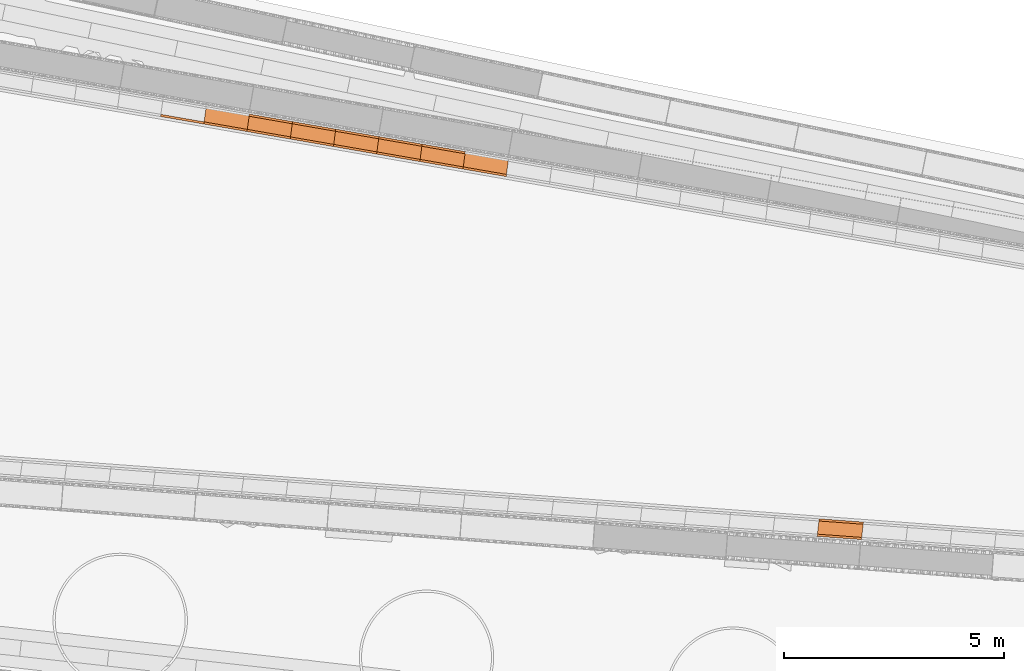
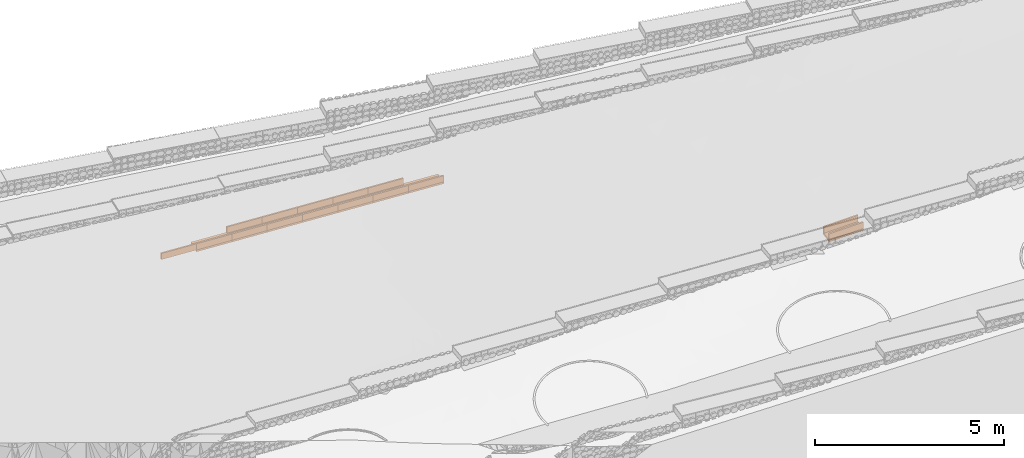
# Not in any storey, part 30 of 46: 23 proxies.
"""IFC4 model written with IfcOpenShell, lengths in metres."""

from ifc_helpers import new_model, si_unit, direction, frame, origin_with_axes, place, context, subcontext, project, spatial, polygons, material, element, save


model = new_model("IFC4")

# Units and contexts
model_context = context("Model", 3, precision=1e-05, world=origin_with_axes(), true_north=direction((0.0, 1.0)))
body_context = subcontext(model_context, "Body", "Model", "MODEL_VIEW")
ifc_project = project(units=[si_unit("VOLUMEUNIT", "CUBIC_METRE"), si_unit("LENGTHUNIT", "METRE"), si_unit("AREAUNIT", "SQUARE_METRE")], contexts=[model_context])

# Site
site_placement = place(None, origin_with_axes())
site = spatial("IfcSite", under=ifc_project, at=site_placement, Name="Lares · Rua das Mercês · artigo 4771")

# Proxies
ifc_material = material(Name="Caleiras · betão", Category="concrete")
proxy_1_placement = place(site_placement, frame((0.0, 0.0, 0.0), z_axis=(0.0, 0.0, 1.0), x_axis=(1.0, -1.03767253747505e-17, 0.0)))
element("IfcBuildingElementProxy", 1, at=proxy_1_placement, inside=site, material=ifc_material, Name="Acesso · canal lateral", ObjectType="Acesso · canal lateral", PredefinedType="USERDEFINED", context=body_context, shape_type="Tessellation", body=[
    polygons([(69.6834123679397, 1.04729718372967, 14.9002447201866), (69.7290946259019, 1.44468003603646, 14.9002447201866), (70.7339138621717, 1.37079048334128, 14.9747027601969), (70.6882316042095, 0.973407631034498, 14.9747027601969), (69.6834123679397, 1.04729718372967, 14.9602447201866), (69.7290946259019, 1.44468003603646, 14.9602447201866), (70.7339138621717, 1.37079048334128, 15.034702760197), (70.6882316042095, 0.973407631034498, 15.034702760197)], [[[4, 3, 2, 1]], [[5, 6, 7, 8]], [[1, 2, 6, 5]], [[2, 3, 7, 6]], [[3, 4, 8, 7]], [[4, 1, 5, 8]]]),
])
proxy_2_placement = place(site_placement, frame((0.0, 0.0, 0.0), z_axis=(0.0, 0.0, 1.0), x_axis=(1.0, -1.03767253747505e-17, 0.0)))
element("IfcBuildingElementProxy", 2, at=proxy_2_placement, inside=site, material=ifc_material, Name="Acesso · canal lateral", ObjectType="Acesso · canal lateral", PredefinedType="USERDEFINED", context=body_context, shape_type="Tessellation", body=[
    polygons([(69.6834123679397, 1.04729718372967, 14.9602447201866), (69.689122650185, 1.09697004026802, 14.9602447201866), (70.6939418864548, 1.02308048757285, 15.034702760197), (70.6882316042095, 0.973407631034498, 15.034702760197), (69.6834123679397, 1.04729718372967, 15.1602447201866), (69.689122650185, 1.09697004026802, 15.1602447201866), (70.6939418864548, 1.02308048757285, 15.2347027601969), (70.6882316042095, 0.973407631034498, 15.2347027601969)], [[[4, 3, 2, 1]], [[5, 6, 7, 8]], [[1, 2, 6, 5]], [[2, 3, 7, 6]], [[3, 4, 8, 7]], [[4, 1, 5, 8]]]),
])
proxy_3_placement = place(site_placement, frame((0.0, 0.0, 0.0), z_axis=(0.0, 0.0, 1.0), x_axis=(1.0, -1.03767253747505e-17, 0.0)))
element("IfcBuildingElementProxy", 3, at=proxy_3_placement, inside=site, material=ifc_material, Name="Acesso · canal lateral", ObjectType="Acesso · canal lateral", PredefinedType="USERDEFINED", context=body_context, shape_type="Tessellation", body=[
    polygons([(69.7233843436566, 1.39500717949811, 14.9602447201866), (69.7290946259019, 1.44468003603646, 14.9602447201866), (70.7339138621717, 1.37079048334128, 15.034702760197), (70.7282035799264, 1.32111762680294, 15.034702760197), (69.7233843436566, 1.39500717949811, 15.1602447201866), (69.7290946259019, 1.44468003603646, 15.1602447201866), (70.7339138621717, 1.37079048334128, 15.2347027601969), (70.7282035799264, 1.32111762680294, 15.2347027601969)], [[[4, 3, 2, 1]], [[5, 6, 7, 8]], [[1, 2, 6, 5]], [[2, 3, 7, 6]], [[3, 4, 8, 7]], [[4, 1, 5, 8]]]),
])
proxy_4_placement = place(site_placement, frame((0.0, 0.0, 0.0), z_axis=(0.0, 0.0, 1.0), x_axis=(1.0, -1.03767253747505e-17, 0.0)))
element("IfcBuildingElementProxy", 4, at=proxy_4_placement, inside=site, material=ifc_material, Name="Acesso · canal lateral", ObjectType="Acesso · canal lateral", PredefinedType="USERDEFINED", context=body_context, shape_type="Tessellation", body=[
    polygons([(54.7818602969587, 10.5747191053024, 13.7689160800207), (54.7888231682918, 10.6242319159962, 13.7689160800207), (55.769225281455, 10.4539091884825, 13.8433741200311), (55.762262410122, 10.4043963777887, 13.8433741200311), (54.7818602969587, 10.5747191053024, 13.9689160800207), (54.7888231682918, 10.6242319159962, 13.9689160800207), (55.769225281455, 10.4539091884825, 14.0433741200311), (55.762262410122, 10.4043963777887, 14.0433741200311)], [[[4, 3, 2, 1]], [[5, 6, 7, 8]], [[1, 2, 6, 5]], [[2, 3, 7, 6]], [[3, 4, 8, 7]], [[4, 1, 5, 8]]]),
])
proxy_5_placement = place(site_placement, frame((0.0, 0.0, 0.0), z_axis=(0.0, 0.0, 1.0), x_axis=(1.0, -1.03767253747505e-17, 0.0)))
element("IfcBuildingElementProxy", 5, at=proxy_5_placement, inside=site, material=ifc_material, Name="Acesso · canal lateral", ObjectType="Acesso · canal lateral", PredefinedType="USERDEFINED", context=body_context, shape_type="Tessellation", body=[
    polygons([(55.7625153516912, 10.4043609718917, 13.7833741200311), (55.8177124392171, 10.800534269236, 13.7833741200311), (56.7981061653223, 10.6302122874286, 13.8578321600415), (56.7429090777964, 10.2340389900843, 13.8578321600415), (55.7625153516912, 10.4043609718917, 13.8433741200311), (55.8177124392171, 10.800534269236, 13.8433741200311), (56.7981061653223, 10.6302122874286, 13.9178321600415), (56.7429090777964, 10.2340389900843, 13.9178321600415)], [[[4, 3, 2, 1]], [[5, 6, 7, 8]], [[1, 2, 6, 5]], [[2, 3, 7, 6]], [[3, 4, 8, 7]], [[4, 1, 5, 8]]]),
])
proxy_6_placement = place(site_placement, frame((0.0, 0.0, 0.0), z_axis=(0.0, 0.0, 1.0), x_axis=(1.0, -1.03767253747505e-17, 0.0)))
element("IfcBuildingElementProxy", 6, at=proxy_6_placement, inside=site, material=ifc_material, Name="Acesso · canal lateral", ObjectType="Acesso · canal lateral", PredefinedType="USERDEFINED", context=body_context, shape_type="Tessellation", body=[
    polygons([(55.7625153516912, 10.4043609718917, 13.8433741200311), (55.769414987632, 10.4538826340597, 13.8433741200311), (56.7498087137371, 10.2835606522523, 13.9178321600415), (56.7429090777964, 10.2340389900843, 13.9178321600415), (55.7625153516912, 10.4043609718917, 14.0433741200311), (55.769414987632, 10.4538826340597, 14.0433741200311), (56.7498087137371, 10.2835606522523, 14.1178321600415), (56.7429090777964, 10.2340389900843, 14.1178321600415)], [[[4, 3, 2, 1]], [[5, 6, 7, 8]], [[1, 2, 6, 5]], [[2, 3, 7, 6]], [[3, 4, 8, 7]], [[4, 1, 5, 8]]]),
])
proxy_7_placement = place(site_placement, frame((0.0, 0.0, 0.0), z_axis=(0.0, 0.0, 1.0), x_axis=(1.0, -1.03767253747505e-17, 0.0)))
element("IfcBuildingElementProxy", 7, at=proxy_7_placement, inside=site, material=ifc_material, Name="Acesso · canal lateral", ObjectType="Acesso · canal lateral", PredefinedType="USERDEFINED", context=body_context, shape_type="Tessellation", body=[
    polygons([(56.7431685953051, 10.2340030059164, 13.8578321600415), (56.7978466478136, 10.6302482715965, 13.8578321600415), (57.7782316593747, 10.4599270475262, 13.9322902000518), (57.7235536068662, 10.0636817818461, 13.9322902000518), (56.7431685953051, 10.2340030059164, 13.9178321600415), (56.7978466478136, 10.6302482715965, 13.9178321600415), (57.7782316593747, 10.4599270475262, 13.9922902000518), (57.7235536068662, 10.0636817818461, 13.9922902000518)], [[[4, 3, 2, 1]], [[5, 6, 7, 8]], [[1, 2, 6, 5]], [[2, 3, 7, 6]], [[3, 4, 8, 7]], [[4, 1, 5, 8]]]),
])
proxy_8_placement = place(site_placement, frame((0.0, 0.0, 0.0), z_axis=(0.0, 0.0, 1.0), x_axis=(1.0, -1.03767253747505e-17, 0.0)))
element("IfcBuildingElementProxy", 8, at=proxy_8_placement, inside=site, material=ifc_material, Name="Acesso · canal lateral", ObjectType="Acesso · canal lateral", PredefinedType="USERDEFINED", context=body_context, shape_type="Tessellation", body=[
    polygons([(56.7431685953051, 10.2340030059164, 13.9178321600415), (56.7500033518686, 10.2835336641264, 13.9178321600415), (57.7303883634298, 10.1132124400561, 13.9922902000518), (57.7235536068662, 10.0636817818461, 13.9922902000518), (56.7431685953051, 10.2340030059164, 14.1178321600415), (56.7500033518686, 10.2835336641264, 14.1178321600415), (57.7303883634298, 10.1132124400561, 14.1922902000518), (57.7235536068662, 10.0636817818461, 14.1922902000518)], [[[4, 3, 2, 1]], [[5, 6, 7, 8]], [[1, 2, 6, 5]], [[2, 3, 7, 6]], [[3, 4, 8, 7]], [[4, 1, 5, 8]]]),
])
proxy_9_placement = place(site_placement, frame((0.0, 0.0, 0.0), z_axis=(0.0, 0.0, 1.0), x_axis=(1.0, -1.03767253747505e-17, 0.0)))
element("IfcBuildingElementProxy", 9, at=proxy_9_placement, inside=site, material=ifc_material, Name="Acesso · canal lateral", ObjectType="Acesso · canal lateral", PredefinedType="USERDEFINED", context=body_context, shape_type="Tessellation", body=[
    polygons([(56.79101189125, 10.5807176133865, 13.9178321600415), (56.7978466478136, 10.6302482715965, 13.9178321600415), (57.7782316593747, 10.4599270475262, 13.9922902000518), (57.7713969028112, 10.4103963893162, 13.9922902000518), (56.79101189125, 10.5807176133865, 14.1178321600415), (56.7978466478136, 10.6302482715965, 14.1178321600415), (57.7782316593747, 10.4599270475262, 14.1922902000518), (57.7713969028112, 10.4103963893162, 14.1922902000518)], [[[4, 3, 2, 1]], [[5, 6, 7, 8]], [[1, 2, 6, 5]], [[2, 3, 7, 6]], [[3, 4, 8, 7]], [[4, 1, 5, 8]]]),
])
proxy_10_placement = place(site_placement, frame((0.0, 0.0, 0.0), z_axis=(0.0, 0.0, 1.0), x_axis=(1.0, -1.03767253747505e-17, 0.0)))
element("IfcBuildingElementProxy", 10, at=proxy_10_placement, inside=site, material=ifc_material, Name="Acesso · canal lateral", ObjectType="Acesso · canal lateral", PredefinedType="USERDEFINED", context=body_context, shape_type="Tessellation", body=[
    polygons([(57.723819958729, 10.0636452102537, 13.9322902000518), (57.7779653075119, 10.4599636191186, 13.9322902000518), (58.7583412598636, 10.2896431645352, 14.0067482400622), (58.7041959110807, 9.89332475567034, 14.0067482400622), (57.723819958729, 10.0636452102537, 13.9922902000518), (57.7779653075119, 10.4599636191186, 13.9922902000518), (58.7583412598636, 10.2896431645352, 14.0667482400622), (58.7041959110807, 9.89332475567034, 14.0667482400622)], [[[4, 3, 2, 1]], [[5, 6, 7, 8]], [[1, 2, 6, 5]], [[2, 3, 7, 6]], [[3, 4, 8, 7]], [[4, 1, 5, 8]]]),
])
proxy_11_placement = place(site_placement, frame((0.0, 0.0, 0.0), z_axis=(0.0, 0.0, 1.0), x_axis=(1.0, -1.03767253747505e-17, 0.0)))
element("IfcBuildingElementProxy", 11, at=proxy_11_placement, inside=site, material=ifc_material, Name="Acesso · canal lateral", ObjectType="Acesso · canal lateral", PredefinedType="USERDEFINED", context=body_context, shape_type="Tessellation", body=[
    polygons([(57.723819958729, 10.0636452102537, 13.9922902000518), (57.7305881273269, 10.1131850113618, 13.9922902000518), (58.7109640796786, 9.94286455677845, 14.0667482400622), (58.7041959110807, 9.89332475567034, 14.0667482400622), (57.723819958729, 10.0636452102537, 14.1922902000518), (57.7305881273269, 10.1131850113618, 14.1922902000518), (58.7109640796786, 9.94286455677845, 14.2667482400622), (58.7041959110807, 9.89332475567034, 14.2667482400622)], [[[4, 3, 2, 1]], [[5, 6, 7, 8]], [[1, 2, 6, 5]], [[2, 3, 7, 6]], [[3, 4, 8, 7]], [[4, 1, 5, 8]]]),
])
proxy_12_placement = place(site_placement, frame((0.0, 0.0, 0.0), z_axis=(0.0, 0.0, 1.0), x_axis=(1.0, -1.03767253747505e-17, 0.0)))
element("IfcBuildingElementProxy", 12, at=proxy_12_placement, inside=site, material=ifc_material, Name="Acesso · canal lateral", ObjectType="Acesso · canal lateral", PredefinedType="USERDEFINED", context=body_context, shape_type="Tessellation", body=[
    polygons([(57.7711971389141, 10.4104238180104, 13.9922902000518), (57.7779653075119, 10.4599636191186, 13.9922902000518), (58.7583412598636, 10.2896431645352, 14.0667482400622), (58.7515730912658, 10.2401033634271, 14.0667482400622), (57.7711971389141, 10.4104238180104, 14.1922902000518), (57.7779653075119, 10.4599636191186, 14.1922902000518), (58.7583412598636, 10.2896431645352, 14.2667482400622), (58.7515730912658, 10.2401033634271, 14.2667482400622)], [[[4, 3, 2, 1]], [[5, 6, 7, 8]], [[1, 2, 6, 5]], [[2, 3, 7, 6]], [[3, 4, 8, 7]], [[4, 1, 5, 8]]]),
])
proxy_13_placement = place(site_placement, frame((0.0, 0.0, 0.0), z_axis=(0.0, 0.0, 1.0), x_axis=(1.0, -1.03767253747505e-17, 0.0)))
element("IfcBuildingElementProxy", 13, at=proxy_13_placement, inside=site, material=ifc_material, Name="Acesso · canal lateral", ObjectType="Acesso · canal lateral", PredefinedType="USERDEFINED", context=body_context, shape_type="Tessellation", body=[
    polygons([(58.7044693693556, 9.89328758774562, 14.0067482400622), (58.7580678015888, 10.2896803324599, 14.0067482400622), (59.7384343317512, 10.1193606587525, 14.0812062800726), (59.684835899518, 9.72296791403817, 14.0812062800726), (58.7044693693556, 9.89328758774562, 14.0667482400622), (58.7580678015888, 10.2896803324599, 14.0667482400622), (59.7384343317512, 10.1193606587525, 14.1412062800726), (59.684835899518, 9.72296791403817, 14.1412062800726)], [[[4, 3, 2, 1]], [[5, 6, 7, 8]], [[1, 2, 6, 5]], [[2, 3, 7, 6]], [[3, 4, 8, 7]], [[4, 1, 5, 8]]]),
])
proxy_14_placement = place(site_placement, frame((0.0, 0.0, 0.0), z_axis=(0.0, 0.0, 1.0), x_axis=(1.0, -1.03767253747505e-17, 0.0)))
element("IfcBuildingElementProxy", 14, at=proxy_14_placement, inside=site, material=ifc_material, Name="Acesso · canal lateral", ObjectType="Acesso · canal lateral", PredefinedType="USERDEFINED", context=body_context, shape_type="Tessellation", body=[
    polygons([(58.7044693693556, 9.89328758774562, 14.0667482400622), (58.7111691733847, 9.94283668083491, 14.0667482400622), (59.6915357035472, 9.77251700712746, 14.1412062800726), (59.684835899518, 9.72296791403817, 14.1412062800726), (58.7044693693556, 9.89328758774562, 14.2667482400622), (58.7111691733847, 9.94283668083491, 14.2667482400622), (59.6915357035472, 9.77251700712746, 14.3412062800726), (59.684835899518, 9.72296791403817, 14.3412062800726)], [[[4, 3, 2, 1]], [[5, 6, 7, 8]], [[1, 2, 6, 5]], [[2, 3, 7, 6]], [[3, 4, 8, 7]], [[4, 1, 5, 8]]]),
])
proxy_15_placement = place(site_placement, frame((0.0, 0.0, 0.0), z_axis=(0.0, 0.0, 1.0), x_axis=(1.0, -1.03767253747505e-17, 0.0)))
element("IfcBuildingElementProxy", 15, at=proxy_15_placement, inside=site, material=ifc_material, Name="Acesso · canal lateral", ObjectType="Acesso · canal lateral", PredefinedType="USERDEFINED", context=body_context, shape_type="Tessellation", body=[
    polygons([(58.7513679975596, 10.2401312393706, 14.0667482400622), (58.7580678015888, 10.2896803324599, 14.0667482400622), (59.7384343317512, 10.1193606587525, 14.1412062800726), (59.731734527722, 10.0698115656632, 14.1412062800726), (58.7513679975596, 10.2401312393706, 14.2667482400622), (58.7580678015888, 10.2896803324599, 14.2667482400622), (59.7384343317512, 10.1193606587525, 14.3412062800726), (59.731734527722, 10.0698115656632, 14.3412062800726)], [[[4, 3, 2, 1]], [[5, 6, 7, 8]], [[1, 2, 6, 5]], [[2, 3, 7, 6]], [[3, 4, 8, 7]], [[4, 1, 5, 8]]]),
])
proxy_16_placement = place(site_placement, frame((0.0, 0.0, 0.0), z_axis=(0.0, 0.0, 1.0), x_axis=(1.0, -1.03767253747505e-17, 0.0)))
element("IfcBuildingElementProxy", 16, at=proxy_16_placement, inside=site, material=ifc_material, Name="Acesso · canal lateral", ObjectType="Acesso · canal lateral", PredefinedType="USERDEFINED", context=body_context, shape_type="Tessellation", body=[
    polygons([(59.6851167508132, 9.72293014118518, 14.0812062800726), (59.738153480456, 10.1193984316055, 14.0812062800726), (60.7185102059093, 9.9490795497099, 14.1556643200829), (60.6654734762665, 9.55261125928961, 14.1556643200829), (59.6851167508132, 9.72293014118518, 14.1412062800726), (59.738153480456, 10.1193984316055, 14.1412062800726), (60.7185102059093, 9.9490795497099, 14.2156643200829), (60.6654734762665, 9.55261125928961, 14.2156643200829)], [[[4, 3, 2, 1]], [[5, 6, 7, 8]], [[1, 2, 6, 5]], [[2, 3, 7, 6]], [[3, 4, 8, 7]], [[4, 1, 5, 8]]]),
])
proxy_17_placement = place(site_placement, frame((0.0, 0.0, 0.0), z_axis=(0.0, 0.0, 1.0), x_axis=(1.0, -1.03767253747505e-17, 0.0)))
element("IfcBuildingElementProxy", 17, at=proxy_17_placement, inside=site, material=ifc_material, Name="Acesso · canal lateral", ObjectType="Acesso · canal lateral", PredefinedType="USERDEFINED", context=body_context, shape_type="Tessellation", body=[
    polygons([(59.6851167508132, 9.72293014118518, 14.1412062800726), (59.6917463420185, 9.77248867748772, 14.1412062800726), (60.6721030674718, 9.60216979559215, 14.2156643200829), (60.6654734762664, 9.55261125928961, 14.2156643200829), (59.6851167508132, 9.72293014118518, 14.3412062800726), (59.6917463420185, 9.77248867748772, 14.3412062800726), (60.6721030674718, 9.60216979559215, 14.4156643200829), (60.6654734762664, 9.55261125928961, 14.4156643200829)], [[[4, 3, 2, 1]], [[5, 6, 7, 8]], [[1, 2, 6, 5]], [[2, 3, 7, 6]], [[3, 4, 8, 7]], [[4, 1, 5, 8]]]),
])
proxy_18_placement = place(site_placement, frame((0.0, 0.0, 0.0), z_axis=(0.0, 0.0, 1.0), x_axis=(1.0, -1.03767253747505e-17, 0.0)))
element("IfcBuildingElementProxy", 18, at=proxy_18_placement, inside=site, material=ifc_material, Name="Acesso · canal lateral", ObjectType="Acesso · canal lateral", PredefinedType="USERDEFINED", context=body_context, shape_type="Tessellation", body=[
    polygons([(59.7315238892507, 10.0698398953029, 14.1412062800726), (59.7381534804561, 10.1193984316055, 14.1412062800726), (60.7185102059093, 9.9490795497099, 14.2156643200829), (60.711880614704, 9.89952101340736, 14.2156643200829), (59.7315238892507, 10.0698398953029, 14.3412062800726), (59.7381534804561, 10.1193984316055, 14.3412062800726), (60.7185102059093, 9.9490795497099, 14.4156643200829), (60.711880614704, 9.89952101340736, 14.4156643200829)], [[[4, 3, 2, 1]], [[5, 6, 7, 8]], [[1, 2, 6, 5]], [[2, 3, 7, 6]], [[3, 4, 8, 7]], [[4, 1, 5, 8]]]),
])
proxy_19_placement = place(site_placement, frame((0.0, 0.0, 0.0), z_axis=(0.0, 0.0, 1.0), x_axis=(1.0, -1.03767253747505e-17, 0.0)))
element("IfcBuildingElementProxy", 19, at=proxy_19_placement, inside=site, material=ifc_material, Name="Acesso · canal lateral", ObjectType="Acesso · canal lateral", PredefinedType="USERDEFINED", context=body_context, shape_type="Tessellation", body=[
    polygons([(60.6657620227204, 9.55257287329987, 14.1556643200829), (60.7182216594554, 9.94911793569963, 14.1556643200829), (61.698568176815, 9.778799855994, 14.2301223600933), (61.6461085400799, 9.38225479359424, 14.2301223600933), (60.6657620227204, 9.55257287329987, 14.2156643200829), (60.7182216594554, 9.94911793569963, 14.2156643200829), (61.698568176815, 9.778799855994, 14.2901223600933), (61.6461085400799, 9.38225479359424, 14.2901223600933)], [[[4, 3, 2, 1]], [[5, 6, 7, 8]], [[1, 2, 6, 5]], [[2, 3, 7, 6]], [[3, 4, 8, 7]], [[4, 1, 5, 8]]]),
])
proxy_20_placement = place(site_placement, frame((0.0, 0.0, 0.0), z_axis=(0.0, 0.0, 1.0), x_axis=(1.0, -1.03767253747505e-17, 0.0)))
element("IfcBuildingElementProxy", 20, at=proxy_20_placement, inside=site, material=ifc_material, Name="Acesso · canal lateral", ObjectType="Acesso · canal lateral", PredefinedType="USERDEFINED", context=body_context, shape_type="Tessellation", body=[
    polygons([(60.6657620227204, 9.55257287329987, 14.2156643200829), (60.6723194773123, 9.60214100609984, 14.2156643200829), (61.6526659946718, 9.43182292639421, 14.2901223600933), (61.6461085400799, 9.38225479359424, 14.2901223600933), (60.6657620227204, 9.55257287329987, 14.4156643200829), (60.6723194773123, 9.60214100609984, 14.4156643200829), (61.6526659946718, 9.43182292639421, 14.4901223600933), (61.6461085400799, 9.38225479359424, 14.4901223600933)], [[[4, 3, 2, 1]], [[5, 6, 7, 8]], [[1, 2, 6, 5]], [[2, 3, 7, 6]], [[3, 4, 8, 7]], [[4, 1, 5, 8]]]),
])
proxy_21_placement = place(site_placement, frame((0.0, 0.0, 0.0), z_axis=(0.0, 0.0, 1.0), x_axis=(1.0, -1.03767253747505e-17, 0.0)))
element("IfcBuildingElementProxy", 21, at=proxy_21_placement, inside=site, material=ifc_material, Name="Acesso · canal lateral", ObjectType="Acesso · canal lateral", PredefinedType="USERDEFINED", context=body_context, shape_type="Tessellation", body=[
    polygons([(60.7116642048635, 9.89954980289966, 14.2156643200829), (60.7182216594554, 9.94911793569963, 14.2156643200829), (61.698568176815, 9.778799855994, 14.2901223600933), (61.6920107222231, 9.72923172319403, 14.2901223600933), (60.7116642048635, 9.89954980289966, 14.4156643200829), (60.7182216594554, 9.94911793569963, 14.4156643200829), (61.698568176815, 9.778799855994, 14.4901223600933), (61.6920107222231, 9.72923172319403, 14.4901223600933)], [[[4, 3, 2, 1]], [[5, 6, 7, 8]], [[1, 2, 6, 5]], [[2, 3, 7, 6]], [[3, 4, 8, 7]], [[4, 1, 5, 8]]]),
])
proxy_22_placement = place(site_placement, frame((0.0, 0.0, 0.0), z_axis=(0.0, 0.0, 1.0), x_axis=(1.0, -1.03767253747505e-17, 0.0)))
element("IfcBuildingElementProxy", 22, at=proxy_22_placement, inside=site, material=ifc_material, Name="Acesso · canal lateral", ObjectType="Acesso · canal lateral", PredefinedType="USERDEFINED", context=body_context, shape_type="Tessellation", body=[
    polygons([(61.6464051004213, 9.38221578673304, 14.2301223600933), (61.6982716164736, 9.77883886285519, 14.2301223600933), (62.6786075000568, 9.6085215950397, 14.3045804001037), (62.6267409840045, 9.21189851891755, 14.3045804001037), (61.6464051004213, 9.38221578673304, 14.2901223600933), (61.6982716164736, 9.77883886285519, 14.2901223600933), (62.6786075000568, 9.6085215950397, 14.3645804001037), (62.6267409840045, 9.21189851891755, 14.3645804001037)], [[[4, 3, 2, 1]], [[5, 6, 7, 8]], [[1, 2, 6, 5]], [[2, 3, 7, 6]], [[3, 4, 8, 7]], [[4, 1, 5, 8]]]),
])
proxy_23_placement = place(site_placement, frame((0.0, 0.0, 0.0), z_axis=(0.0, 0.0, 1.0), x_axis=(1.0, -1.03767253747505e-17, 0.0)))
element("IfcBuildingElementProxy", 23, at=proxy_23_placement, inside=site, material=ifc_material, Name="Acesso · canal lateral", ObjectType="Acesso · canal lateral", PredefinedType="USERDEFINED", context=body_context, shape_type="Tessellation", body=[
    polygons([(61.6464051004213, 9.38221578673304, 14.2901223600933), (61.6528884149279, 9.43179367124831, 14.2901223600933), (62.633224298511, 9.26147640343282, 14.3645804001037), (62.6267409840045, 9.21189851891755, 14.3645804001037), (61.6464051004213, 9.38221578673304, 14.4901223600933), (61.6528884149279, 9.43179367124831, 14.4901223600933), (62.633224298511, 9.26147640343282, 14.5645804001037), (62.6267409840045, 9.21189851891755, 14.5645804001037)], [[[4, 3, 2, 1]], [[5, 6, 7, 8]], [[1, 2, 6, 5]], [[2, 3, 7, 6]], [[3, 4, 8, 7]], [[4, 1, 5, 8]]]),
])

save(model, "model.ifc")
